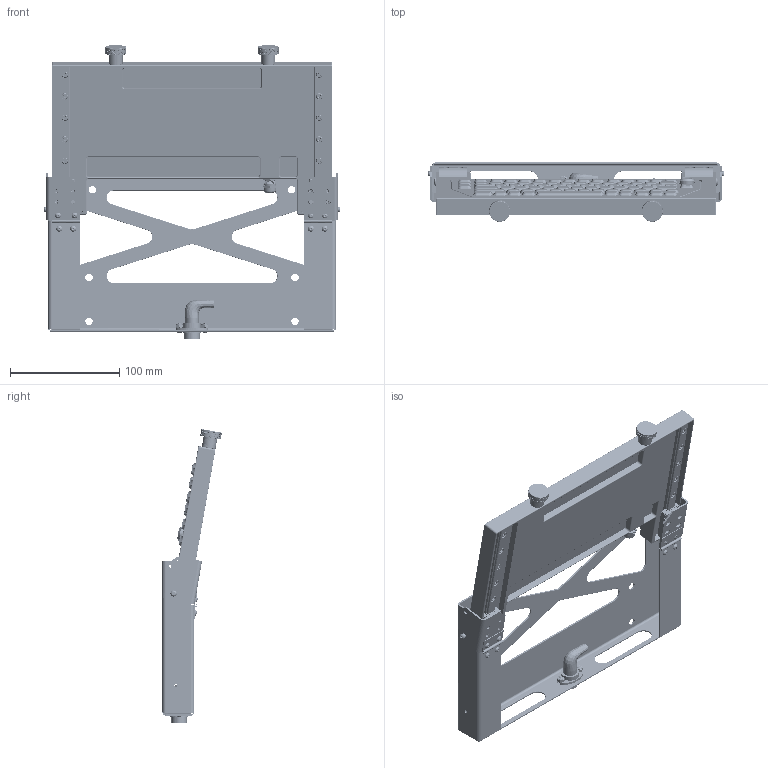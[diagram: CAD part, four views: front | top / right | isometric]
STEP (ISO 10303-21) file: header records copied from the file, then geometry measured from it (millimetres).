
FILE_DESCRIPTION (( 'STEP AP203' ), '1' );
FILE_NAME ('US010-0001-1.1_KEYBOARD ASSEMBLY, RACK MOUNT, LOCKING.STEP', '2024-05-17T15:05:30', ( '' ), ( '' ), 'SwSTEP 2.0', 'SolidWorks 2022', '' );
FILE_SCHEMA (( 'CONFIG_CONTROL_DESIGN' ));
Length unit declared in the file: inch
Products named in the file (33): SLK-79-FSR-PAD; US010-2006_KEYBOARD FORMED RACK, LOCKING; US010-4002_KEYBOARD CASE, RACK; LOCKIP_US010-2005_KEYBOARD HINGE, WITHOUT HOLES_15665A317; TE CONNECTIVITY_222A111-25-0; US010-2008_KEYBOARD HINGE BRACKET, LEFT, LOCKING; Samtec-TSM-105-01-L-DH; LEMO_PBN.1M.308.XLM; MCMASTER_84895A63_Press-Fit Stainless Steel Ball-Nose Spring Plunger_84895A63; SealCon_CD10MW-BR; MCMASTER_6079K11_Black-Oxide Steel Knurled Grip Knob_6079K11; HW-NUT-0440-SS-NI_91831A005; PennEngineering_S04-M3-4; Delrin Bumper; US010-0006_KEYBOARD RACK ASSEMBLY, LOCKING_open; HW-SCREW-S-0440-0188-SS-000SH-HE_92196A105; HW-SCREW-M-0305-0050-SS-000SH-HE_91292A110; Misumi_SSEB10-135_RSR9 x 135mm Rail; SLK-79-FSR-OEM; US010-5003_CABLE, KEYBOARD, POWER AND DATA; Lemo_EGN.0M.655.ZZM_Crimp Terminal, Female, 0M; US010-4003_KEYBOARD, HINGE, FASTENED ; HW-SCREW-S-0440-0125-SS-000RH-HE-BO_92949A103; US010-0007_KEYBOARD ASSEMBLY, RACK CASE; LOCKIP_US010-2004_KEYBOARD HINGE, WITH HOLES_15665A317; Misumi_SSEB10-135_RSR9 Block; HW-SCREW-S-0440-0313-SS-000RH-HE_92949A107; US010-2007_KEYBOARD HINGE BRACKET, RIGHT, LOCKING; Molex_16020102_Crimp Terminal, SL, Female, 22-24 AWG; HW-SCREW-M-0305-0040-ST-000RH-BO_91239A109; US010-0001-1.1_KEYBOARD ASSEMBLY, RACK MOUNT, LOCKING
Assembly tree (74 placements, depth 4):
  Lemo_EGN.0M.655.ZZM_Crimp Terminal, Female, 0M
  Molex_16020102_Crimp Terminal, SL, Female, 22-24 AWG
  US010-0001-1.1_KEYBOARD ASSEMBLY, RACK MOUNT, LOCKING
    US010-0006_KEYBOARD RACK ASSEMBLY, LOCKING_open
      US010-2006_KEYBOARD FORMED RACK, LOCKING
        US010-2006_KEYBOARD FORMED RACK, LOCKING
        PennEngineering_S04-M3-4  x2
      US010-2007_KEYBOARD HINGE BRACKET, RIGHT, LOCKING
      US010-2008_KEYBOARD HINGE BRACKET, LEFT, LOCKING
      US010-4003_KEYBOARD, HINGE, FASTENED 
        LOCKIP_US010-2004_KEYBOARD HINGE, WITH HOLES_15665A317
        LOCKIP_US010-2005_KEYBOARD HINGE, WITHOUT HOLES_15665A317
      US010-4003_KEYBOARD, HINGE, FASTENED 
        LOCKIP_US010-2004_KEYBOARD HINGE, WITH HOLES_15665A317
        LOCKIP_US010-2005_KEYBOARD HINGE, WITHOUT HOLES_15665A317
      HW-SCREW-S-0440-0125-SS-000RH-HE-BO_92949A103  x8
      HW-SCREW-M-0305-0040-ST-000RH-BO_91239A109  x2
    US010-0007_KEYBOARD ASSEMBLY, RACK CASE
      US010-4002_KEYBOARD CASE, RACK
      Misumi_SSEB10-135_RSR9 x 135mm Rail  x2
      MCMASTER_84895A63_Press-Fit Stainless Steel Ball-Nose Spring Plunger_84895A63  x2
      Misumi_SSEB10-135_RSR9 Block  x2
      SealCon_CD10MW-BR
      MCMASTER_6079K11_Black-Oxide Steel Knurled Grip Knob_6079K11  x2
      HW-SCREW-S-0440-0188-SS-000SH-HE_92196A105  x4
      HW-SCREW-M-0305-0050-SS-000SH-HE_91292A110  x14
      SLK-79-FSR-OEM
        Samtec-TSM-105-01-L-DH  x3
        SLK-79-FSR-PAD
    US010-5003_CABLE, KEYBOARD, POWER AND DATA
      LEMO_PBN.1M.308.XLM
      TE CONNECTIVITY_222A111-25-0
    HW-SCREW-M-0305-0040-ST-000RH-BO_91239A109  x8
    HW-SCREW-S-0440-0313-SS-000RH-HE_92949A107  x2
    HW-NUT-0440-SS-NI_91831A005  x2
    Delrin Bumper  x2
Bounding box: 271.65 x 54.69 x 269.02 mm (x, y, z)
Volume: 306412.5 mm3; surface area: 299227.1 mm2
Topology: 152 solids, 156 shells, 17370 faces, 44233 edges, 28334 vertices
Faces by surface type: plane 8802, cylinder 5900, bspline 1518, cone 1006, torus 96, sphere 48
Entity records: 438362 total; most frequent: CARTESIAN_POINT 180882, ORIENTED_EDGE 56048, DIRECTION 49365, EDGE_CURVE 28036, VERTEX_POINT 18129, AXIS2_PLACEMENT_3D 17904, LINE 13557, VECTOR 13557
